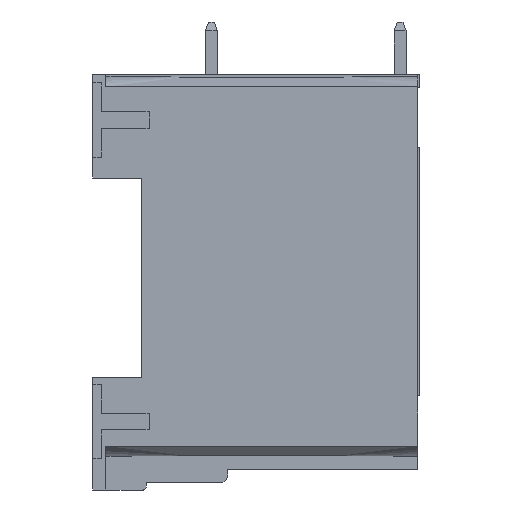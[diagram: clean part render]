
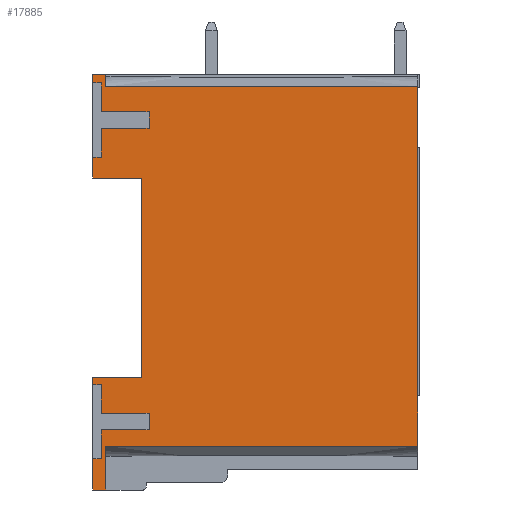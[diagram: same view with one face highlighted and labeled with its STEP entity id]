
A CAD part, left-side view. The second image highlights one B-rep face of the part: STEP entity #17885.
In plain terms, the highlighted planar face has unit normal (-1, 0, 0).
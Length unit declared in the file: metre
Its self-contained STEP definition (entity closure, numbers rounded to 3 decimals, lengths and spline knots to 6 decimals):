
#529=DIRECTION('',(0.,0.,1.));
#530=VECTOR('',#529,0.0006);
#531=CARTESIAN_POINT('',(-0.0046,0.0219,-0.0006));
#532=LINE('',#531,#530);
#537=DIRECTION('',(0.,0.,1.));
#538=VECTOR('',#537,0.0014);
#539=CARTESIAN_POINT('',(-0.0046,0.0219,-0.007));
#540=LINE('',#539,#538);
#1577=DIRECTION('',(0.,0.,1.));
#1578=VECTOR('',#1577,0.0134);
#1579=CARTESIAN_POINT('',(-0.0046,0.0186,-0.0204));
#1580=LINE('',#1579,#1578);
#1825=DIRECTION('',(0.,-1.,0.));
#1826=VECTOR('',#1825,0.0033);
#1827=CARTESIAN_POINT('',(-0.0046,0.0219,-0.0204));
#1828=LINE('',#1827,#1826);
#1928=DIRECTION('',(0.,0.,1.));
#1929=VECTOR('',#1928,0.0005);
#1930=CARTESIAN_POINT('',(-0.0046,0.0219,-0.0209));
#1931=LINE('',#1930,#1929);
#1932=DIRECTION('',(0.,0.,1.));
#1933=VECTOR('',#1932,0.0021);
#1934=CARTESIAN_POINT('',(-0.0046,0.0219,-0.028));
#1935=LINE('',#1934,#1933);
#3229=DIRECTION('',(0.,-1.,0.));
#3230=VECTOR('',#3229,0.0009);
#3231=CARTESIAN_POINT('',(-0.0046,0.0219,0.));
#3232=LINE('',#3231,#3230);
#4954=DIRECTION('',(0.,1.,0.));
#4955=VECTOR('',#4954,0.0033);
#4956=CARTESIAN_POINT('',(-0.0046,0.0186,-0.007));
#4957=LINE('',#4956,#4955);
#4958=DIRECTION('',(0.,1.,0.));
#4959=VECTOR('',#4958,0.021);
#4960=CARTESIAN_POINT('',(-0.0046,0.,-0.00086));
#4961=LINE('',#4960,#4959);
#4962=DIRECTION('',(0.,0.,1.));
#4963=VECTOR('',#4962,0.02418);
#4964=CARTESIAN_POINT('',(-0.0046,0.,-0.02504));
#4965=LINE('',#4964,#4963);
#4966=DIRECTION('',(0.,-1.,0.));
#4967=VECTOR('',#4966,0.0006);
#4968=CARTESIAN_POINT('',(-0.0046,0.0219,-0.0056));
#4969=LINE('',#4968,#4967);
#4974=DIRECTION('',(0.,0.,1.));
#4975=VECTOR('',#4974,0.00195);
#4976=CARTESIAN_POINT('',(-0.0046,0.0213,-0.0056));
#4977=LINE('',#4976,#4975);
#4986=DIRECTION('',(0.,-1.,0.));
#4987=VECTOR('',#4986,0.0032);
#4988=CARTESIAN_POINT('',(-0.0046,0.0213,-0.00365));
#4989=LINE('',#4988,#4987);
#4994=DIRECTION('',(0.,0.,1.));
#4995=VECTOR('',#4994,0.0011);
#4996=CARTESIAN_POINT('',(-0.0046,0.0181,-0.00365));
#4997=LINE('',#4996,#4995);
#5002=DIRECTION('',(0.,1.,0.));
#5003=VECTOR('',#5002,0.0032);
#5004=CARTESIAN_POINT('',(-0.0046,0.0181,-0.00255));
#5005=LINE('',#5004,#5003);
#5010=DIRECTION('',(0.,0.,1.));
#5011=VECTOR('',#5010,0.00195);
#5012=CARTESIAN_POINT('',(-0.0046,0.0213,-0.00255));
#5013=LINE('',#5012,#5011);
#5018=DIRECTION('',(0.,1.,0.));
#5019=VECTOR('',#5018,0.0006);
#5020=CARTESIAN_POINT('',(-0.0046,0.0213,-0.0006));
#5021=LINE('',#5020,#5019);
#5054=DIRECTION('',(0.,0.,-1.));
#5055=VECTOR('',#5054,0.00086);
#5056=CARTESIAN_POINT('',(-0.0046,0.021,0.));
#5057=LINE('',#5056,#5055);
#5114=DIRECTION('',(0.,1.,0.));
#5115=VECTOR('',#5114,0.021);
#5116=CARTESIAN_POINT('',(-0.0046,0.,-0.02504));
#5117=LINE('',#5116,#5115);
#5278=DIRECTION('',(0.,1.,0.));
#5279=VECTOR('',#5278,0.0009);
#5280=CARTESIAN_POINT('',(-0.0046,0.021,-0.028));
#5281=LINE('',#5280,#5279);
#5318=DIRECTION('',(0.,0.,-1.));
#5319=VECTOR('',#5318,0.00296);
#5320=CARTESIAN_POINT('',(-0.0046,0.021,-0.02504));
#5321=LINE('',#5320,#5319);
#5326=DIRECTION('',(0.,-1.,0.));
#5327=VECTOR('',#5326,0.0006);
#5328=CARTESIAN_POINT('',(-0.0046,0.0219,-0.0259));
#5329=LINE('',#5328,#5327);
#5338=DIRECTION('',(0.,0.,1.));
#5339=VECTOR('',#5338,0.00195);
#5340=CARTESIAN_POINT('',(-0.0046,0.0213,-0.0259));
#5341=LINE('',#5340,#5339);
#5346=DIRECTION('',(0.,-1.,0.));
#5347=VECTOR('',#5346,0.0032);
#5348=CARTESIAN_POINT('',(-0.0046,0.0213,-0.02395));
#5349=LINE('',#5348,#5347);
#5354=DIRECTION('',(0.,0.,1.));
#5355=VECTOR('',#5354,0.0011);
#5356=CARTESIAN_POINT('',(-0.0046,0.0181,-0.02395));
#5357=LINE('',#5356,#5355);
#5362=DIRECTION('',(0.,1.,0.));
#5363=VECTOR('',#5362,0.0032);
#5364=CARTESIAN_POINT('',(-0.0046,0.0181,-0.02285));
#5365=LINE('',#5364,#5363);
#5370=DIRECTION('',(0.,0.,1.));
#5371=VECTOR('',#5370,0.00195);
#5372=CARTESIAN_POINT('',(-0.0046,0.0213,-0.02285));
#5373=LINE('',#5372,#5371);
#5378=DIRECTION('',(0.,1.,0.));
#5379=VECTOR('',#5378,0.0006);
#5380=CARTESIAN_POINT('',(-0.0046,0.0213,-0.0209));
#5381=LINE('',#5380,#5379);
#8029=CARTESIAN_POINT('',(-0.0046,0.,-0.00086));
#8031=VERTEX_POINT('',#8029);
#8045=CARTESIAN_POINT('',(-0.0046,0.,-0.02504));
#8046=VERTEX_POINT('',#8045);
#8079=CARTESIAN_POINT('',(-0.0046,0.021,-0.00086));
#8080=VERTEX_POINT('',#8079);
#8083=CARTESIAN_POINT('',(-0.0046,0.0219,-0.0056));
#8084=CARTESIAN_POINT('',(-0.0046,0.0213,-0.0056));
#8085=VERTEX_POINT('',#8083);
#8086=VERTEX_POINT('',#8084);
#8087=CARTESIAN_POINT('',(-0.0046,0.0213,-0.00365));
#8088=VERTEX_POINT('',#8087);
#8089=CARTESIAN_POINT('',(-0.0046,0.0181,-0.00365));
#8090=VERTEX_POINT('',#8089);
#8091=CARTESIAN_POINT('',(-0.0046,0.0181,-0.00255));
#8092=VERTEX_POINT('',#8091);
#8093=CARTESIAN_POINT('',(-0.0046,0.0213,-0.00255));
#8094=VERTEX_POINT('',#8093);
#8095=CARTESIAN_POINT('',(-0.0046,0.0213,-0.0006));
#8096=VERTEX_POINT('',#8095);
#8097=CARTESIAN_POINT('',(-0.0046,0.0219,-0.0006));
#8098=VERTEX_POINT('',#8097);
#8099=CARTESIAN_POINT('',(-0.0046,0.0219,0.));
#8100=VERTEX_POINT('',#8099);
#8101=CARTESIAN_POINT('',(-0.0046,0.021,0.));
#8102=VERTEX_POINT('',#8101);
#8103=CARTESIAN_POINT('',(-0.0046,0.021,-0.02504));
#8104=VERTEX_POINT('',#8103);
#8105=CARTESIAN_POINT('',(-0.0046,0.021,-0.028));
#8106=VERTEX_POINT('',#8105);
#8107=CARTESIAN_POINT('',(-0.0046,0.0219,-0.028));
#8108=VERTEX_POINT('',#8107);
#8109=CARTESIAN_POINT('',(-0.0046,0.0219,-0.0259));
#8110=VERTEX_POINT('',#8109);
#8111=CARTESIAN_POINT('',(-0.0046,0.0213,-0.0259));
#8112=VERTEX_POINT('',#8111);
#8113=CARTESIAN_POINT('',(-0.0046,0.0213,-0.02395));
#8114=VERTEX_POINT('',#8113);
#8115=CARTESIAN_POINT('',(-0.0046,0.0181,-0.02395));
#8116=VERTEX_POINT('',#8115);
#8117=CARTESIAN_POINT('',(-0.0046,0.0181,-0.02285));
#8118=VERTEX_POINT('',#8117);
#8119=CARTESIAN_POINT('',(-0.0046,0.0213,-0.02285));
#8120=VERTEX_POINT('',#8119);
#8121=CARTESIAN_POINT('',(-0.0046,0.0213,-0.0209));
#8122=VERTEX_POINT('',#8121);
#8123=CARTESIAN_POINT('',(-0.0046,0.0219,-0.0209));
#8124=VERTEX_POINT('',#8123);
#8125=CARTESIAN_POINT('',(-0.0046,0.0219,-0.0204));
#8126=VERTEX_POINT('',#8125);
#8127=CARTESIAN_POINT('',(-0.0046,0.0186,-0.0204));
#8128=VERTEX_POINT('',#8127);
#8129=CARTESIAN_POINT('',(-0.0046,0.0186,-0.007));
#8130=VERTEX_POINT('',#8129);
#8131=CARTESIAN_POINT('',(-0.0046,0.0219,-0.007));
#8132=VERTEX_POINT('',#8131);
#17831=CARTESIAN_POINT('',(-0.0046,0.,0.));
#17832=DIRECTION('',(-1.,0.,0.));
#17833=DIRECTION('',(0.,0.,-1.));
#17834=AXIS2_PLACEMENT_3D('',#17831,#17832,#17833);
#17835=PLANE('',#17834);
#17836=ORIENTED_EDGE('',*,*,#11244,.T.);
#17838=ORIENTED_EDGE('',*,*,#17837,.T.);
#17840=ORIENTED_EDGE('',*,*,#17839,.T.);
#17842=ORIENTED_EDGE('',*,*,#17841,.T.);
#17844=ORIENTED_EDGE('',*,*,#17843,.T.);
#17846=ORIENTED_EDGE('',*,*,#17845,.T.);
#17848=ORIENTED_EDGE('',*,*,#17847,.T.);
#17850=ORIENTED_EDGE('',*,*,#17849,.T.);
#17851=ORIENTED_EDGE('',*,*,#11236,.T.);
#17852=ORIENTED_EDGE('',*,*,#15218,.T.);
#17854=ORIENTED_EDGE('',*,*,#17853,.T.);
#17856=ORIENTED_EDGE('',*,*,#17855,.F.);
#17857=ORIENTED_EDGE('',*,*,#16805,.F.);
#17859=ORIENTED_EDGE('',*,*,#17858,.T.);
#17861=ORIENTED_EDGE('',*,*,#17860,.T.);
#17863=ORIENTED_EDGE('',*,*,#17862,.T.);
#17864=ORIENTED_EDGE('',*,*,#13210,.T.);
#17866=ORIENTED_EDGE('',*,*,#17865,.T.);
#17868=ORIENTED_EDGE('',*,*,#17867,.T.);
#17870=ORIENTED_EDGE('',*,*,#17869,.T.);
#17872=ORIENTED_EDGE('',*,*,#17871,.T.);
#17874=ORIENTED_EDGE('',*,*,#17873,.T.);
#17876=ORIENTED_EDGE('',*,*,#17875,.T.);
#17878=ORIENTED_EDGE('',*,*,#17877,.T.);
#17879=ORIENTED_EDGE('',*,*,#13202,.T.);
#17880=ORIENTED_EDGE('',*,*,#13179,.T.);
#17881=ORIENTED_EDGE('',*,*,#12867,.T.);
#17882=ORIENTED_EDGE('',*,*,#17826,.T.);
#17883=EDGE_LOOP('',(#17836,#17838,#17840,#17842,#17844,#17846,#17848,#17850,
#17851,#17852,#17854,#17856,#17857,#17859,#17861,#17863,#17864,#17866,#17868,
#17870,#17872,#17874,#17876,#17878,#17879,#17880,#17881,#17882));
#17884=FACE_OUTER_BOUND('',#17883,.F.);
#17885=ADVANCED_FACE('',(#17884),#17835,.T.);
#11236=EDGE_CURVE('',#8098,#8100,#532,.T.);
#11244=EDGE_CURVE('',#8132,#8085,#540,.T.);
#12867=EDGE_CURVE('',#8128,#8130,#1580,.T.);
#13179=EDGE_CURVE('',#8126,#8128,#1828,.T.);
#13202=EDGE_CURVE('',#8124,#8126,#1931,.T.);
#13210=EDGE_CURVE('',#8108,#8110,#1935,.T.);
#15218=EDGE_CURVE('',#8100,#8102,#3232,.T.);
#16805=EDGE_CURVE('',#8046,#8031,#4965,.T.);
#17826=EDGE_CURVE('',#8130,#8132,#4957,.T.);
#17837=EDGE_CURVE('',#8085,#8086,#4969,.T.);
#17839=EDGE_CURVE('',#8086,#8088,#4977,.T.);
#17841=EDGE_CURVE('',#8088,#8090,#4989,.T.);
#17843=EDGE_CURVE('',#8090,#8092,#4997,.T.);
#17845=EDGE_CURVE('',#8092,#8094,#5005,.T.);
#17847=EDGE_CURVE('',#8094,#8096,#5013,.T.);
#17849=EDGE_CURVE('',#8096,#8098,#5021,.T.);
#17853=EDGE_CURVE('',#8102,#8080,#5057,.T.);
#17855=EDGE_CURVE('',#8031,#8080,#4961,.T.);
#17858=EDGE_CURVE('',#8046,#8104,#5117,.T.);
#17860=EDGE_CURVE('',#8104,#8106,#5321,.T.);
#17862=EDGE_CURVE('',#8106,#8108,#5281,.T.);
#17865=EDGE_CURVE('',#8110,#8112,#5329,.T.);
#17867=EDGE_CURVE('',#8112,#8114,#5341,.T.);
#17869=EDGE_CURVE('',#8114,#8116,#5349,.T.);
#17871=EDGE_CURVE('',#8116,#8118,#5357,.T.);
#17873=EDGE_CURVE('',#8118,#8120,#5365,.T.);
#17875=EDGE_CURVE('',#8120,#8122,#5373,.T.);
#17877=EDGE_CURVE('',#8122,#8124,#5381,.T.);
